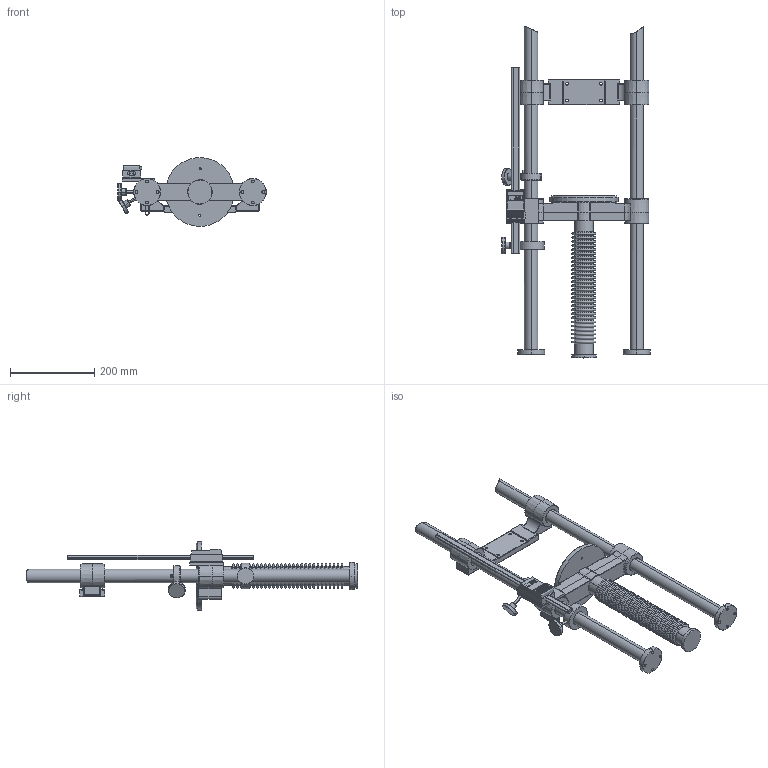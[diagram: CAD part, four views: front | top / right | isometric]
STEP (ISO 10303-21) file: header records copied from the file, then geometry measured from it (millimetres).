
FILE_DESCRIPTION (( 'STEP AP214' ), '1' );
FILE_NAME ('Prüfstand_TVM-N_komplett_Stand14102014_01.STEP', '2014-10-14T11:34:10', ( '' ), ( '' ), 'SwSTEP 2.0', 'SolidWorks 2014', '' );
FILE_SCHEMA (( 'AUTOMOTIVE_DESIGN' ));
Length unit declared in the file: millimetre
Products named in the file (13): F黨rungss鋟le_TVM-N; Prüfstand_TVM-N_komplett_Stand14102014_01; Dummy_Messeinheit_TVM-N; DIN912_M4x10; Schalterbefestigung_TVM-N; Anschlag_mit_Feststellschraube_oben_TVM-N; Anschlag_mit_Feststellschraube_TVM-N; Halterung_TVM-N; Plattform_TVM-N; Faltenbalg_TVM-N; Mittelsäule_TVM-N; Verbindungsstück_TVM-N
Assembly tree (12 placements, depth 2):
  Prüfstand_TVM-N_komplett_Stand14102014_01
    F黨rungss鋟le_TVM-N
    F黨rungss鋟le_TVM-N
    Verbindungsstück_TVM-N
    Mittelsäule_TVM-N
    Faltenbalg_TVM-N
    Plattform_TVM-N
    Halterung_TVM-N
    Anschlag_mit_Feststellschraube_TVM-N
    Anschlag_mit_Feststellschraube_oben_TVM-N
    Schalterbefestigung_TVM-N
    DIN912_M4x10
    Dummy_Messeinheit_TVM-N
Bounding box: 351.69 x 785.95 x 163 mm (x, y, z)
Volume: 3104241.1 mm3; surface area: 702689.5 mm2
Topology: 18 solids, 47 shells, 1508 faces, 3461 edges, 2028 vertices
Faces by surface type: plane 535, cone 329, cylinder 290, torus 210, bspline 120, sphere 24
Entity records: 49707 total; most frequent: CARTESIAN_POINT 11237, DIRECTION 7226, ORIENTED_EDGE 6866, EDGE_CURVE 3433, AXIS2_PLACEMENT_3D 2686, VERTEX_POINT 2028, LINE 1854, VECTOR 1854
